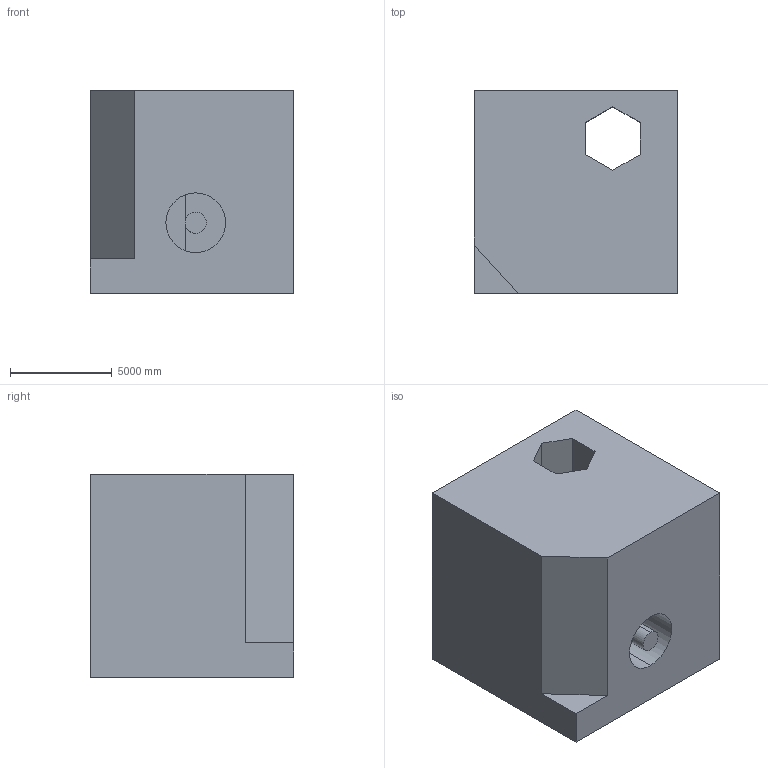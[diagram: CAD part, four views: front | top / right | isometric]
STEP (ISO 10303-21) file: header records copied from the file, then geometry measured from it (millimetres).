
FILE_DESCRIPTION (( 'STEP AP203' ), '1' );
FILE_NAME ('1387.STEP', '2022-08-18T14:10:56', ( 'user' ), ( '' ), 'SwSTEP 2.0', 'SolidWorks 2021', '' );
FILE_SCHEMA (( 'CONFIG_CONTROL_DESIGN' ));
Length unit declared in the file: centimetre
Products named in the file (1): 1387
Bounding box: 10000 x 10000 x 10000 mm (x, y, z)
Volume: 843630773558.4 mm3; surface area: 773492702.2 mm2
Topology: 1 solids, 1 shells, 26 faces, 72 edges, 48 vertices
Faces by surface type: plane 22, cylinder 4
Entity records: 913 total; most frequent: CARTESIAN_POINT 147, ORIENTED_EDGE 144, DIRECTION 138, EDGE_CURVE 72, VECTOR 60, LINE 60, VERTEX_POINT 48, AXIS2_PLACEMENT_3D 39
